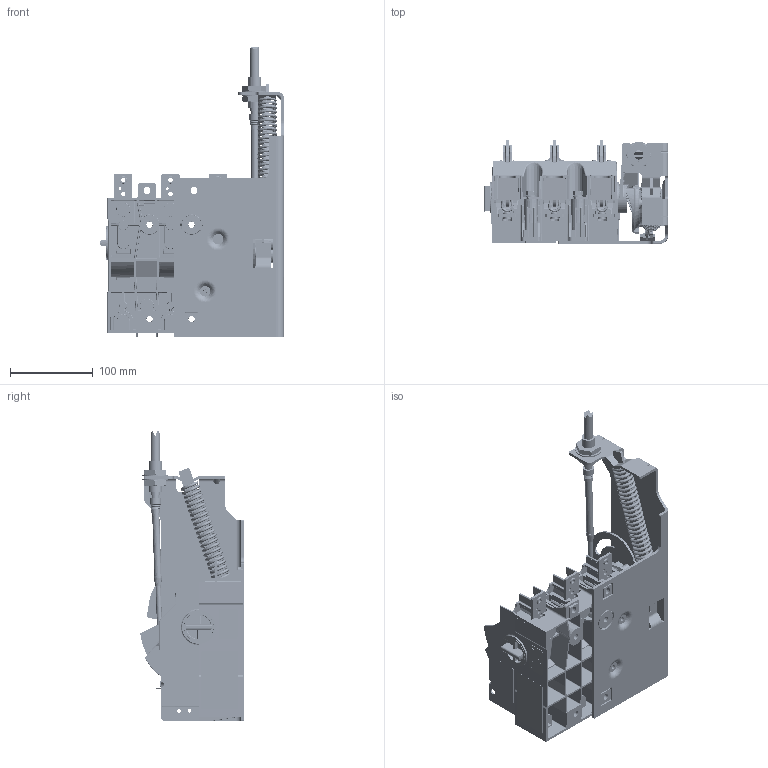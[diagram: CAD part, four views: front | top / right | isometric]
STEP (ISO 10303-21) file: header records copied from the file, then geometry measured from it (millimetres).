
FILE_DESCRIPTION((''),'2;1');
FILE_NAME('10003748802_ASM','2025-05-21T07:41:40',('LEQuenti'),('Rockwell Automation'),'CREO PARAMETRIC BY PTC INC, 2022424','CREO PARAMETRIC BY PTC INC, 2022424','');
FILE_SCHEMA(('AUTOMOTIVE_DESIGN { 1 0 10303 214 1 1 1 1 }'));
Length unit declared in the file: inch
Products named in the file (60): 10002299348; 40021-256-STAKED; 10002299349_ASM; 10000495007; 10002228324; 10002228325; 10001097290; 10000714168; M-1243; 10000686654; 10002228326_ASM; 10002441778; B-36119; 10002307066_ASM; 10001164262_AF0; 28325-545; 10002307286_ASM; 10001481915; 10001633915; 10001633914; 10001481918; 10001481919; 10002546149; M-2381; 95615A120; 10002602511_ASM; M-353; 28459-352; 10002819458_ASM; 10000444933; 40392-28361037; 10000086643; 10001345496_ASM; 10001311158; 10002106620; 10002690285; 10002125119_ASM; 10001205157; 10001205712; 10001206577_ASM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
Assembly tree (100 placements, depth 6):
  10003748802_ASM
    10002819458_ASM
      10002307286_ASM
        10002299349_ASM
          10002299348
          40021-256-STAKED
        10000495007  x2
        10002228326_ASM
          10002228324
          10002228325
          10001097290  x3
          10000714168
          M-1243
          10000686654
        10002307066_ASM
          10002441778
          B-36119
        10001164262_AF0
        28325-545
      10002602511_ASM
        10001481915
        10001633915
        10001633914
        10001481918  x2
        10001481919  x2
        10002546149
        M-2381
        95615A120
      M-353  x2
      28459-352
    10001332375_ASM
      10001345932_ASM
        10001345496_ASM
          10000444933
          40392-28361037  x4
          10000086643
        10001311158  x3
        10002125119_ASM  x3
          10002106620
          10002690285
        10001218173_AF1_ASM
          10001206577_ASM
            10001205157
            10001205712
          10001206967
          10002705018
        10001218173_AF0_ASM
          10001206577_ASM
            10001205157
            10001205712
          10001206967
          10002705018
        10001218173_AF3_ASM
          10001206577_ASM
            10001205157
            10001205712
          10001206967
          10002705018
        10001097290  x6
      10001320250
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Bounding box: 222.35 x 125.19 x 351.85 mm (x, y, z)
Volume: 993796.5 mm3; surface area: 758423.4 mm2
Topology: 88 solids, 110 shells, 12044 faces, 31507 edges, 19858 vertices
Faces by surface type: plane 6753, cylinder 3160, bspline 1022, cone 408, torus 320, sphere 261, extrusion 118, revolution 2
Entity records: 460335 total; most frequent: CARTESIAN_POINT 136916, ORIENTED_EDGE 53098, DIRECTION 44011, PRESENTATION_STYLE_ASSIGNMENT 26738, STYLED_ITEM 26611, CURVE_STYLE 26559, EDGE_CURVE 26559, VECTOR 17991
